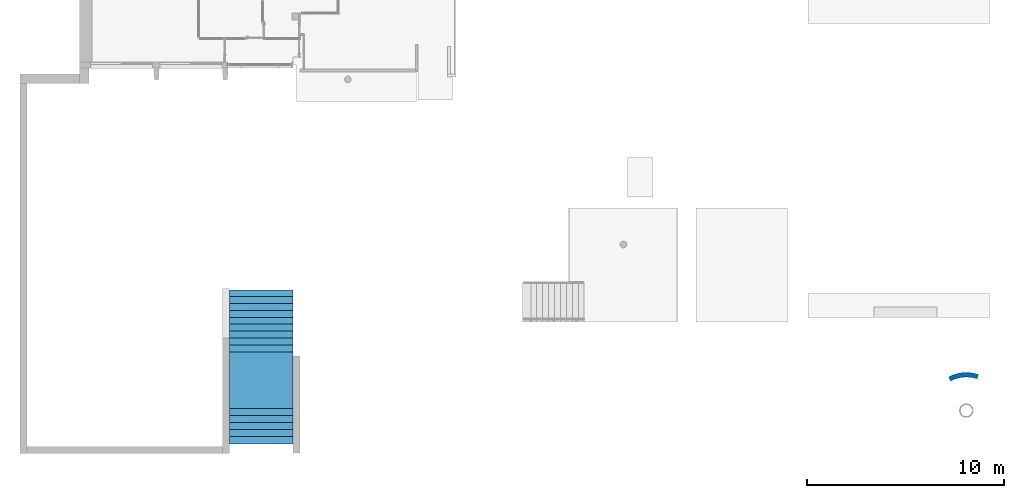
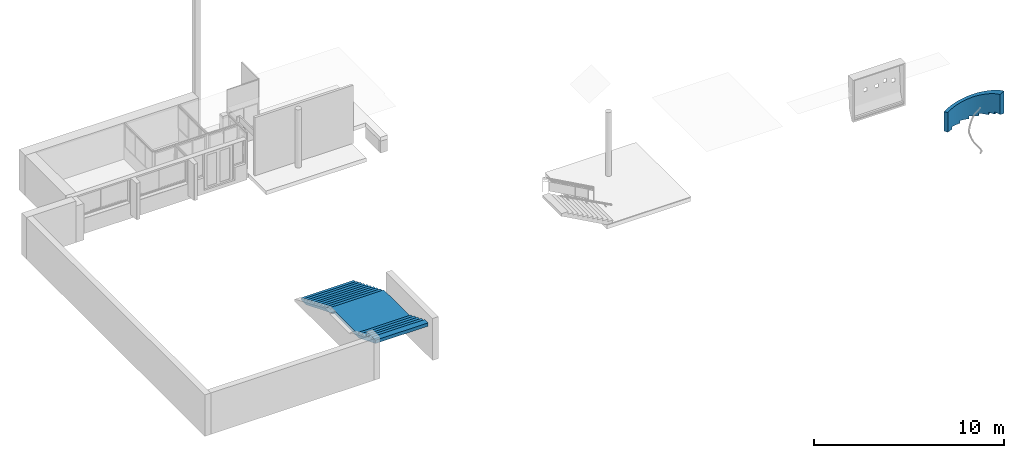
# One storey, part 14 of 19: 1 stair, 1 wall.
"""IFC4 building model written with IfcOpenShell, lengths in metres."""

import ifcopenshell
import ifcopenshell.guid

model = None  # the IFC model being written
_history = None  # IfcOwnerHistory: only IFC2X3 demands one
_inside = {}  # id of a spatial element -> (the spatial element, [elements in it])
_under = {}  # id of a project, library or spatial element -> (it, [spatial elements below it])
_declared = {}  # id of a project -> (the project, [libraries it declares])
_typed = {}  # id of a type object -> (the type object, [elements of that type])
_made_of = {}  # id of a material, layer set ... -> (it, [elements and type objects made of it])


def new_model(schema):
    """Start an empty IFC model of exactly this schema.

    Asked for "IFC4X3", IfcOpenShell would pick the latest addendum, in which some entities
    have other attributes; the version numbers below select the first issue.
    IFC2X3 requires an IfcOwnerHistory on every rooted entity: one is made here for all.
    """
    global model, _history
    if schema == "IFC4X3":
        model = ifcopenshell.file(schema_version=(4, 3, 0, 0))
    else:
        model = ifcopenshell.file(schema=schema)
    _inside.clear()
    _under.clear()
    _declared.clear()
    _typed.clear()
    _made_of.clear()
    _history = None
    if model.schema == "IFC2X3":
        org = make("IfcOrganization", Name="unknown")
        user = make(
            "IfcPersonAndOrganization",
            ThePerson=make("IfcPerson", FamilyName="unknown"),
            TheOrganization=org,
        )
        app = make(
            "IfcApplication",
            ApplicationDeveloper=org,
            Version="unknown",
            ApplicationFullName="unknown",
            ApplicationIdentifier="unknown",
        )
        _history = make(
            "IfcOwnerHistory",
            OwningUser=user,
            OwningApplication=app,
            ChangeAction="ADDED",
            CreationDate=0,
        )
    return model


def make(cls, **values):
    """One entity of the class cls with the attributes given. An attribute that is None is left unset."""
    return model.create_entity(
        cls, **{name: value for name, value in values.items() if value is not None}
    )


def entity(cls, *values):
    """Any entity or typed value of the class cls, its attributes in the order of the schema. None: left unset."""
    e = model.create_entity(cls)
    for i, value in enumerate(values):
        if value is not None:
            e[i] = value
    return e


def rooted(cls, **values):
    """An entity with a GlobalId (a new one), such as an element, a storey or a relation."""
    return make(cls, GlobalId=ifcopenshell.guid.new(), OwnerHistory=_history, **values)


def si_unit(unit_type, name, prefix=None):
    """IfcSIUnit, for example si_unit("LENGTHUNIT", "METRE", prefix="MILLI")."""
    return make("IfcSIUnit", UnitType=unit_type, Prefix=prefix, Name=name)


def converted_unit(unit_type, name, factor, base, dimensions=None, offset=None):
    """IfcConversionBasedUnit, such as the inch: factor (a typed value) times the base unit."""
    return make(
        "IfcConversionBasedUnit"
        if offset is None
        else "IfcConversionBasedUnitWithOffset",
        ConversionOffset=offset,
        Dimensions=None
        if dimensions is None
        else entity("IfcDimensionalExponents", *dimensions),
        UnitType=unit_type,
        Name=name,
        ConversionFactor=make(
            "IfcMeasureWithUnit", ValueComponent=factor, UnitComponent=base
        ),
    )


def derived_unit(unit_type, elements):
    """IfcDerivedUnit: a product of units, each with its exponent."""
    return make(
        "IfcDerivedUnit",
        Elements=[
            make("IfcDerivedUnitElement", Unit=unit, Exponent=power)
            for unit, power in elements
        ],
        UnitType=unit_type,
    )


def assignment(units):
    """IfcUnitAssignment: the units of a project."""
    return None if units is None else make("IfcUnitAssignment", Units=units)


def point(xyz):
    """IfcCartesianPoint."""
    return None if xyz is None else make("IfcCartesianPoint", Coordinates=xyz)


def direction(xyz):
    """IfcDirection."""
    return None if xyz is None else make("IfcDirection", DirectionRatios=xyz)


def frame(location, z_axis=None, x_axis=None):
    """IfcAxis2Placement3D, a coordinate frame: its origin and axes. An axis left out is left unset."""
    return make(
        "IfcAxis2Placement3D",
        Location=point(location),
        Axis=direction(z_axis),
        RefDirection=direction(x_axis),
    )


def origin():
    """The frame at (0, 0, 0) with its axes left unset."""
    return frame((0.0, 0.0, 0.0))


def place(relative_to, where):
    """IfcLocalPlacement: puts the frame where relative to a parent placement (None: the world)."""
    return make(
        "IfcLocalPlacement", PlacementRelTo=relative_to, RelativePlacement=where
    )


def context(
    kind, dimensions, precision=None, world=None, true_north=None, identifier=None
):
    """IfcGeometricRepresentationContext, for example the 3D "Model" context."""
    return make(
        "IfcGeometricRepresentationContext",
        ContextIdentifier=identifier,
        ContextType=kind,
        CoordinateSpaceDimension=dimensions,
        Precision=precision,
        WorldCoordinateSystem=world,
        TrueNorth=true_north,
    )


def subcontext(parent, identifier, kind, view, scale=None):
    """IfcGeometricRepresentationSubContext, for example "Body" below "Model"."""
    return make(
        "IfcGeometricRepresentationSubContext",
        ContextIdentifier=identifier,
        ContextType=kind,
        ParentContext=parent,
        TargetScale=scale,
        TargetView=view,
    )


def project(units=None, contexts=None):
    """IfcProject with its units and contexts."""
    return rooted(
        "IfcProject",
        Name="project",
        RepresentationContexts=contexts,
        UnitsInContext=assignment(units),
    )


def spatial(cls, under=None, at=None, **own):
    """A site, building, storey or space (cls), placed at a placement, below another one or the project."""
    s = rooted(cls, ObjectPlacement=at, **own)
    if under is not None:
        _under.setdefault(under.id(), (under, []))[1].append(s)
    return s


def point_list(points):
    """IfcCartesianPointList2D or 3D."""
    cls = (
        "IfcCartesianPointList2D" if len(points[0]) == 2 else "IfcCartesianPointList3D"
    )
    return make(cls, CoordList=points)


def polygons(points, faces, closed=None, point_numbers=None):
    """IfcPolygonalFaceSet: a face is its outer loop, then its inner loops; points numbered from 1."""
    made = []
    for loops in faces:
        if len(loops) == 1:
            made.append(make("IfcIndexedPolygonalFace", CoordIndex=loops[0]))
        else:
            made.append(
                make(
                    "IfcIndexedPolygonalFaceWithVoids",
                    CoordIndex=loops[0],
                    InnerCoordIndices=loops[1:],
                )
            )
    return make(
        "IfcPolygonalFaceSet",
        Coordinates=point_list(points),
        Closed=closed,
        Faces=made,
        PnIndex=point_numbers,
    )


def shape(context_of_items, identifier, shape_type, items):
    """IfcShapeRepresentation: the items that make up one representation, for example the "Body"."""
    return make(
        "IfcShapeRepresentation",
        ContextOfItems=context_of_items,
        RepresentationIdentifier=identifier,
        RepresentationType=shape_type,
        Items=items,
    )


def material(Name=None, Category=None):
    """IfcMaterial."""
    return make("IfcMaterial", Name=Name, Category=Category)


def made_of(thing, what):
    """Note that an element or type object is made of a material, layer set ...; save() writes the relation."""
    if what is not None:
        _made_of.setdefault(what.id(), (what, []))[1].append(thing)
    return thing


def type_object(cls, material=None, **own):
    """A type object (cls), such as IfcWallType, which elements share."""
    return made_of(rooted(cls, **own), material)


def element(
    cls,
    number,
    at=None,
    inside=None,
    cuts=None,
    type_object=None,
    material=None,
    context=None,
    identifier="Body",
    shape_type=None,
    held_by="IfcProductDefinitionShape",
    body=None,
    shapes=None,
    **own,
):
    """One element of the class cls, such as IfcWall. Its Tag is "e" and its number.

    at: its placement. inside: the storey or other place that contains it. cuts: it is an
    opening in that element (IfcRelVoidsElement). A single representation is given by context,
    identifier, shape_type and body (its items); several are given by shapes. held_by: the class
    of the entity that holds the representations. save() writes the other relations.
    """
    e = rooted(cls, Tag="e%d" % number, ObjectPlacement=at, **own)
    if body is not None:
        shapes = [shape(context, identifier, shape_type, body)]
    if shapes is not None:
        e.Representation = make(held_by, Representations=shapes)
    if inside is not None:
        _inside.setdefault(inside.id(), (inside, []))[1].append(e)
    if cuts is not None:
        rooted(
            "IfcRelVoidsElement", RelatingBuildingElement=cuts, RelatedOpeningElement=e
        )
    if type_object is not None:
        _typed.setdefault(type_object.id(), (type_object, []))[1].append(e)
    return made_of(e, material)


def aggregate(whole, parts):
    """IfcRelAggregates: a whole, such as a stair, and the parts it consists of."""
    return rooted("IfcRelAggregates", RelatingObject=whole, RelatedObjects=parts)


def save(model, path):
    """Write the relations noted so far, then the file.

    IfcRelAggregates (storeys below a building ...), IfcRelContainedInSpatialStructure (elements
    in a storey), IfcRelDefinesByType, IfcRelAssociatesMaterial and IfcRelDeclares: one each for
    every whole, place, type object, material and project.
    """
    for whole, parts in _under.values():
        aggregate(whole, parts)
    for where, things in _inside.values():
        rooted(
            "IfcRelContainedInSpatialStructure",
            RelatedElements=things,
            RelatingStructure=where,
        )
    for kind, things in _typed.values():
        rooted("IfcRelDefinesByType", RelatedObjects=things, RelatingType=kind)
    for what, things in _made_of.values():
        rooted("IfcRelAssociatesMaterial", RelatedObjects=things, RelatingMaterial=what)
    for by, libraries in _declared.values():
        rooted("IfcRelDeclares", RelatingContext=by, RelatedDefinitions=libraries)
    model.write(path)


model = new_model("IFC4")

# Units and contexts
model_context = context("Model", 3, precision=1e-05, world=origin(), true_north=direction((6.12303176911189e-17, 1.0)))
body_context = subcontext(model_context, "Body", "Model", "MODEL_VIEW")
ifc_project = project(units=[si_unit("LENGTHUNIT", "METRE"), si_unit("AREAUNIT", "SQUARE_METRE"), si_unit("VOLUMEUNIT", "CUBIC_METRE"), converted_unit("PLANEANGLEUNIT", "DEGREE", entity("IfcRatioMeasure", 0.0174532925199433), si_unit("PLANEANGLEUNIT", "RADIAN"), dimensions=[0, 0, 0, 0, 0, 0, 0]), si_unit("MASSUNIT", "GRAM", prefix="KILO"), derived_unit("MASSDENSITYUNIT", [(si_unit("MASSUNIT", "GRAM", prefix="KILO"), 1), (si_unit("LENGTHUNIT", "METRE"), -3)]), derived_unit("MOMENTOFINERTIAUNIT", [(si_unit("LENGTHUNIT", "METRE"), 4)]), si_unit("TIMEUNIT", "SECOND"), si_unit("FREQUENCYUNIT", "HERTZ"), si_unit("THERMODYNAMICTEMPERATUREUNIT", "DEGREE_CELSIUS"), derived_unit("THERMALTRANSMITTANCEUNIT", [(si_unit("MASSUNIT", "GRAM", prefix="KILO"), 1), (si_unit("THERMODYNAMICTEMPERATUREUNIT", "KELVIN"), -1), (si_unit("TIMEUNIT", "SECOND"), -3)]), derived_unit("VOLUMETRICFLOWRATEUNIT", [(si_unit("LENGTHUNIT", "METRE"), 3), (si_unit("TIMEUNIT", "SECOND"), -1)]), si_unit("ELECTRICCURRENTUNIT", "AMPERE"), si_unit("ELECTRICVOLTAGEUNIT", "VOLT"), si_unit("POWERUNIT", "WATT"), si_unit("FORCEUNIT", "NEWTON", prefix="KILO"), si_unit("ILLUMINANCEUNIT", "LUX"), si_unit("LUMINOUSFLUXUNIT", "LUMEN"), si_unit("LUMINOUSINTENSITYUNIT", "CANDELA"), derived_unit("USERDEFINED", [(si_unit("MASSUNIT", "GRAM", prefix="KILO"), -1), (si_unit("LENGTHUNIT", "METRE"), -2), (si_unit("TIMEUNIT", "SECOND"), 3), (si_unit("LUMINOUSFLUXUNIT", "LUMEN"), 1)]), derived_unit("LINEARVELOCITYUNIT", [(si_unit("LENGTHUNIT", "METRE"), 1), (si_unit("TIMEUNIT", "SECOND"), -1)]), si_unit("PRESSUREUNIT", "PASCAL"), derived_unit("USERDEFINED", [(si_unit("LENGTHUNIT", "METRE"), -2), (si_unit("MASSUNIT", "GRAM", prefix="KILO"), 1), (si_unit("TIMEUNIT", "SECOND"), -2)]), derived_unit("LINEARFORCEUNIT", [(si_unit("MASSUNIT", "GRAM", prefix="KILO"), 1), (si_unit("LENGTHUNIT", "METRE"), 1), (si_unit("TIMEUNIT", "SECOND"), -2), (si_unit("LENGTHUNIT", "METRE"), -1)]), derived_unit("PLANARFORCEUNIT", [(si_unit("MASSUNIT", "GRAM", prefix="KILO"), 1), (si_unit("LENGTHUNIT", "METRE"), 1), (si_unit("TIMEUNIT", "SECOND"), -2), (si_unit("LENGTHUNIT", "METRE"), -2)])], contexts=[model_context])

# Site, building, storey
site_placement = place(None, origin())
site = spatial("IfcSite", under=ifc_project, at=site_placement, Name="Default", CompositionType="ELEMENT")
building_placement = place(site_placement, origin())
building = spatial("IfcBuilding", under=site, at=building_placement, Name="HOTEL CONSULAIRE BOULOGNE SUR MER", CompositionType="ELEMENT")
storey_placement = place(building_placement, frame((0.0, 0.0, -4.01003075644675)))
storey = spatial("IfcBuildingStorey", under=building, at=storey_placement, Name="SS2", CompositionType="ELEMENT", Elevation=-4.01003075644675)

# Wall
ifc_material = material(Name="Mur par défaut", Category="Divers")
wall_type = type_object("IfcWallType", Name="Murs 1:Murs 1", PredefinedType="NOTDEFINED", material=ifc_material)
wall_placement = place(storey_placement, frame((19.4910541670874, -32.1678232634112, 0.74453316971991)))
element("IfcWall", 1, at=wall_placement, inside=storey, type_object=wall_type, material=ifc_material, Name="Murs 1:Murs 1", ObjectType="Murs 1:Murs 1", PredefinedType="NOTDEFINED", context=body_context, shape_type="Tessellation", body=[
    polygons([(2.81528763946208, 1.29944055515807e-14, 2.43129780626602), (2.83282141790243, 0.0, 2.43129780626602), (2.82986643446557, 0.0187414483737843, 2.43129780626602), (2.82673180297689, 0.0374321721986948, 2.43129780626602), (2.47799207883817, 0.378639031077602, 1.00396954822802), (2.64724363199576, 0.463081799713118, 1.00396954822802), (2.6920664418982, 0.485444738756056, 1.00396954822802), (2.73909097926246, 0.367796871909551, 1.00396954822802), (2.77833104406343, 0.247328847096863, 1.00396954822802), (2.80961906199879, 0.124555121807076, 1.00396954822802), (2.83282141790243, 1.29944055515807e-14, 1.00396954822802), (2.64724363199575, 4.33146851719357e-15, 1.00396954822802), (2.59075654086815, 1.29944055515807e-14, 1.00396954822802), (2.56301601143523, 0.129007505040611, 1.00396954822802), (2.5253522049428, 0.255474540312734, 1.00396954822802), (2.59075654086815, 1.29944055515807e-14, 2.29197476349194), (2.57800499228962, 0.0653935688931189, 2.27291913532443), (2.56276999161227, 0.129967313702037, 2.25290489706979), (2.54510226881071, 0.193644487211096, 2.23203546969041), (2.52505138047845, 0.256356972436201, 2.21041145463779), (2.50266569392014, 0.318041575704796, 2.18813095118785), (2.47799207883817, 0.378639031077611, 2.16528928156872), (2.83282141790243, 1.29944055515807e-14, 2.42992545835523), (2.81424028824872, 1.29944055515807e-14, 2.43061151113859), (2.81319276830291, 1.29944055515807e-14, 2.42992545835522), (2.73072729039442, 8.66293703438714e-15, 2.37700951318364), (2.64724363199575, 4.33146851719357e-15, 2.3255849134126), (2.61905617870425, 0.0, 2.30869553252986), (2.6920664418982, 0.485444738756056, 2.26465927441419), (2.71740791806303, 0.424829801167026, 2.29007998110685), (2.7407412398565, 0.363223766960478, 2.31504097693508), (2.7620303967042, 0.30066686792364, 2.33945850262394), (2.78123805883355, 0.23720011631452, 2.36324636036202), (2.79832506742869, 0.172867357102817, 2.38631536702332), (2.81325060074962, 0.107716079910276, 2.40857345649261), (2.82597221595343, 0.0417996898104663, 2.42992545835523), (2.82635322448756, 0.0396163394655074, 2.43061217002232), (2.58563447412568, 0.432343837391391, 2.21411792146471)], [[[3, 4, 1, 2]], [[13, 14, 15, 5, 6, 7, 8, 9, 10, 11, 12]], [[15, 20, 21]], [[22, 5, 21]], [[15, 21, 5]], [[15, 19, 20]], [[17, 18, 14]], [[16, 17, 13]], [[19, 14, 18]], [[13, 17, 14]], [[15, 14, 19]], [[25, 26, 27, 28, 16, 13, 12, 11, 23, 2, 1, 24]], [[11, 36, 3]], [[36, 11, 35]], [[35, 10, 34]], [[10, 35, 11]], [[2, 23, 11, 3]], [[3, 37, 4]], [[36, 37, 3]], [[32, 9, 8]], [[8, 7, 30]], [[29, 30, 7]], [[10, 33, 34]], [[32, 33, 9]], [[8, 31, 32]], [[8, 30, 31]], [[33, 10, 9]], [[38, 29, 7, 6, 5, 22]], [[21, 38, 22]], [[38, 21, 20]], [[38, 31, 30]], [[29, 38, 30]], [[31, 38, 20]], [[19, 31, 20]], [[32, 19, 18]], [[16, 28, 17]], [[18, 17, 33]], [[27, 17, 28]], [[19, 32, 31]], [[34, 33, 17]], [[34, 17, 27]], [[36, 35, 26]], [[26, 35, 34]], [[37, 36, 25]], [[26, 34, 27]], [[25, 36, 26]], [[1, 4, 24]], [[25, 24, 4]], [[37, 25, 4]], [[32, 18, 33]]], closed=True),
    polygons([(2.2899603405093, 0.708666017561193, 0.836641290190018), (2.48813576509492, 0.842330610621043, 0.836641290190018), (2.54575473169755, 0.757925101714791, 0.836641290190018), (2.59883226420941, 0.670624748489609, 0.836641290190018), (2.64723195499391, 0.580659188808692, 0.836641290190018), (2.67029157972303, 0.533364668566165, 0.836641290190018), (2.6920664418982, 0.485444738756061, 0.836641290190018), (2.64724363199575, 0.463081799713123, 0.836641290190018), (2.47799207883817, 0.378639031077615, 0.836641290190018), (2.42359159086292, 0.493228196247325, 0.836641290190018), (2.36079779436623, 0.603441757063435, 0.836641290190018), (2.47799207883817, 0.378639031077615, 2.16528928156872), (2.45176049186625, 0.436652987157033, 2.14255386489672), (2.42343497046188, 0.493528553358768, 2.11945537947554), (2.39305485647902, 0.549216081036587, 2.09607448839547), (2.36065796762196, 0.603667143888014, 2.07248903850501), (2.32628110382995, 0.656833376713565, 2.04877440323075), (2.28996034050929, 0.708666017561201, 2.02500359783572), (2.6920664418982, 0.485444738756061, 1.00396954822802), (2.6920664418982, 0.485444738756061, 2.26465927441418), (2.58563447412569, 0.4323438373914, 2.21411792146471), (2.48813576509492, 0.842330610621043, 2.09874134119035), (2.52321375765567, 0.792092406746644, 2.12370833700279), (2.55668593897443, 0.740772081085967, 2.14868076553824), (2.58853013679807, 0.688401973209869, 2.17360303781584), (2.61872377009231, 0.635013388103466, 2.19841803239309), (2.64724363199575, 0.580636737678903, 2.22306700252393), (2.67028308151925, 0.533382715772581, 2.24396500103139), (2.38944981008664, 0.775769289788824, 2.0612502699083)], [[[9, 10, 11, 1, 2, 3, 4, 5, 6, 7, 8]], [[11, 16, 17]], [[18, 1, 17]], [[11, 17, 1]], [[11, 15, 16]], [[13, 14, 10]], [[12, 13, 9]], [[15, 10, 14]], [[9, 13, 10]], [[11, 10, 15]], [[21, 12, 9, 8, 7, 19, 20]], [[19, 7, 6]], [[19, 6, 5]], [[20, 19, 28]], [[27, 28, 19]], [[27, 19, 26]], [[19, 5, 26]], [[24, 4, 3]], [[3, 2, 23]], [[22, 23, 2]], [[26, 4, 25]], [[25, 4, 24]], [[3, 23, 24]], [[4, 26, 5]], [[29, 22, 2, 1, 18]], [[29, 18, 17]], [[29, 23, 22]], [[29, 16, 24]], [[29, 17, 16]], [[15, 14, 26]], [[24, 16, 15]], [[29, 24, 23]], [[15, 26, 25]], [[26, 14, 21]], [[26, 21, 27]], [[21, 13, 12]], [[20, 28, 21]], [[21, 14, 13]], [[21, 28, 27]], [[24, 15, 25]]], closed=True),
    polygons([(0.460703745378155, 1.3451273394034, 0.0), (0.344853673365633, 1.30839377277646, 0.0), (0.231924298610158, 1.2634766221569, 0.0), (0.122492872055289, 1.21060548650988, 0.0), (5.63090907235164e-14, 1.41598472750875, 0.0), (0.131435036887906, 1.48020572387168, 0.0), (0.267338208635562, 1.53433365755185, 0.0), (0.406935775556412, 1.57806036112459, 0.0), (5.63090907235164e-14, 1.41598472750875, 1.23834266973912), (0.0653743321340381, 1.44946368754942, 1.24995322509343), (0.131872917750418, 1.48039950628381, 1.26222789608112), (0.199386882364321, 1.50875537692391, 1.27517268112), (0.26780803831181, 1.53450046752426, 1.28879244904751), (0.337027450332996, 1.55760901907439, 1.30309050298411), (0.406935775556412, 1.57806036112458, 1.31806846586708), (0.122492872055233, 1.21060548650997, 1.27835272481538), (0.0612990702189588, 1.31320685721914, 1.25801052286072), (0.460703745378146, 1.3451273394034, 1.34846640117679), (0.391157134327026, 1.32417199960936, 1.33294531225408), (0.322423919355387, 1.30021062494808, 1.31817206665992), (0.254642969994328, 1.27327100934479, 1.30414900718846), (0.187953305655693, 1.24338843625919, 1.29087645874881), (0.433837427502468, 1.46151731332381, 1.33311301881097)], [[[6, 7, 8, 1, 2, 3, 4, 5]], [[8, 7, 14]], [[14, 15, 8]], [[13, 14, 7]], [[7, 12, 13]], [[10, 6, 5]], [[10, 5, 9]], [[11, 12, 6]], [[10, 11, 6]], [[6, 12, 7]], [[16, 17, 9, 5, 4]], [[3, 21, 22]], [[16, 4, 22]], [[3, 22, 4]], [[3, 2, 21]], [[1, 18, 19]], [[20, 2, 19]], [[1, 19, 2]], [[21, 2, 20]], [[23, 18, 1, 8, 15]], [[17, 22, 11]], [[11, 21, 12]], [[17, 10, 9]], [[11, 10, 17]], [[16, 22, 17]], [[20, 13, 12]], [[23, 15, 14]], [[13, 20, 23]], [[18, 23, 19]], [[21, 11, 22]], [[23, 20, 19]], [[21, 20, 12]], [[13, 23, 14]]], closed=True),
    polygons([(1.91326742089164, 1.08420396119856, 0.669313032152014), (2.06044161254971, 1.27256444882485, 0.669313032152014), (2.17972680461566, 1.1779560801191, 0.669313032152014), (2.29122053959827, 1.07427943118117, 0.669313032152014), (2.39423527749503, 0.962173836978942, 0.669313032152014), (2.48813576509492, 0.842330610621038, 0.669313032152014), (2.28996034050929, 0.708666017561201, 0.669313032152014), (2.2071573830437, 0.813373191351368, 0.669313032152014), (2.11639348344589, 0.91126004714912, 0.669313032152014), (2.01822837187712, 1.00172292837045, 0.669313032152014), (2.28996034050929, 0.708666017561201, 2.02500359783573), (2.24977999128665, 0.761588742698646, 2.00006696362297), (2.2075377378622, 0.812929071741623, 1.97522554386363), (2.16327646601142, 0.862625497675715, 1.95055684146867), (2.11703932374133, 0.910615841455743, 1.92613544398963), (2.06887116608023, 0.956835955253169, 1.9020336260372), (2.01881915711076, 1.00121969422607, 1.87832136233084), (1.96693337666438, 1.04369898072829, 1.85506629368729), (1.91326742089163, 1.08420396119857, 1.83233364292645), (2.48813576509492, 0.842330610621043, 2.09874134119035), (2.38944981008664, 0.775769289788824, 2.0612502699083), (2.06044161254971, 1.27256444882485, 1.86339669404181), (2.11488682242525, 1.23127058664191, 1.88780386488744), (2.16768563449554, 1.18821674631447, 1.91278590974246), (2.21879705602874, 1.14346341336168, 1.93828525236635), (2.26818453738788, 1.09706813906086, 1.96424320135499), (2.31581407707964, 1.04908643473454, 1.99059939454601), (2.36165375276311, 0.999571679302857, 2.01729182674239), (2.40567325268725, 0.948575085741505, 2.04425683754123), (2.44784341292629, 0.896145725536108, 2.07142906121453), (1.98697456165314, 1.17853784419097, 1.84767243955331)], [[[5, 6, 7, 8, 9, 10, 1, 2, 3, 4]], [[10, 16, 17]], [[10, 17, 18]], [[1, 18, 19]], [[10, 18, 1]], [[10, 9, 16]], [[9, 15, 16]], [[7, 11, 12]], [[8, 12, 13]], [[9, 8, 14]], [[13, 14, 8]], [[8, 7, 12]], [[15, 9, 14]], [[20, 21, 11, 7, 6]], [[29, 6, 5]], [[27, 5, 4]], [[28, 5, 27]], [[30, 20, 6]], [[28, 29, 5]], [[30, 6, 29]], [[25, 4, 3]], [[3, 2, 23]], [[22, 23, 2]], [[25, 26, 4]], [[23, 24, 3]], [[25, 3, 24]], [[4, 26, 27]], [[31, 22, 2, 1, 19]], [[23, 22, 31]], [[17, 24, 31]], [[23, 31, 24]], [[25, 24, 17]], [[31, 19, 18]], [[25, 17, 16]], [[16, 15, 26]], [[17, 31, 18]], [[26, 25, 16]], [[15, 28, 27]], [[29, 28, 14]], [[15, 14, 28]], [[30, 29, 21]], [[13, 29, 14]], [[21, 13, 12]], [[12, 11, 21]], [[21, 29, 13]], [[21, 20, 30]], [[26, 15, 27]]], closed=True),
    polygons([(1.46024184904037, 1.31790384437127, 0.501984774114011), (1.54592890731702, 1.54109515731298, 0.501984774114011), (1.68176844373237, 1.48866651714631, 0.501984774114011), (1.81329019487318, 1.42619115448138, 0.501984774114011), (1.93975234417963, 1.35402144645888, 0.501984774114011), (2.06044161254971, 1.27256444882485, 0.501984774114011), (1.91326742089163, 1.08420396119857, 0.501984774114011), (1.80693675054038, 1.1552654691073, 0.501984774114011), (1.69556450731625, 1.21813177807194, 0.501984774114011), (1.57978108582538, 1.27244704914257, 0.501984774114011), (1.91326742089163, 1.08420396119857, 1.83233364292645), (1.86095979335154, 1.12060858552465, 1.80803977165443), (1.80729212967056, 1.1550467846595, 1.78384647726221), (1.75232490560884, 1.18747371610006, 1.75979238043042), (1.69612033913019, 1.2178449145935, 1.73591490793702), (1.63874250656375, 1.24611643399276, 1.71225025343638), (1.58025752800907, 1.27224496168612, 1.68883336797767), (1.52073373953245, 1.29618796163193, 1.66569794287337), (1.46024184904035, 1.31790384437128, 1.64287638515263), (2.06044161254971, 1.27256444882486, 1.86339669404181), (1.98697456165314, 1.17853784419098, 1.84767243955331), (1.54592890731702, 1.54109515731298, 1.64876911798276), (1.61238536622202, 1.51691010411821, 1.67401595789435), (1.67778816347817, 1.49037186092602, 1.69964746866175), (1.74206553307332, 1.46152527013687, 1.72562959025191), (1.80514835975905, 1.43041600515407, 1.75192684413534), (1.86697001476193, 1.39709037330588, 1.7785023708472), (1.92746617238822, 1.36159514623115, 1.80531795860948), (1.98657370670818, 1.32397801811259, 1.83233364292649), (2.02384579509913, 1.2986722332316, 1.84772183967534), (2.06044161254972, 1.27256444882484, 1.09466908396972), (1.50309098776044, 1.42951411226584, 1.64581965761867), (1.96086065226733, 1.23987440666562, 1.83233364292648), (1.93706403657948, 1.16203918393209, 1.83233364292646)], [[[4, 5, 6, 7, 8, 9, 10, 1, 2, 3]], [[10, 16, 17]], [[10, 17, 18]], [[1, 18, 19]], [[10, 18, 1]], [[10, 9, 16]], [[9, 15, 16]], [[7, 11, 12]], [[8, 12, 13]], [[9, 8, 14]], [[13, 14, 8]], [[8, 7, 12]], [[15, 9, 14]], [[21, 11, 7, 6, 31, 20]], [[27, 31, 5]], [[27, 5, 4]], [[31, 27, 28]], [[5, 31, 6]], [[30, 31, 29]], [[29, 31, 28]], [[25, 4, 3]], [[3, 2, 23]], [[22, 23, 2]], [[25, 26, 4]], [[30, 20, 31]], [[23, 24, 3]], [[25, 3, 24]], [[4, 26, 27]], [[32, 22, 2, 1, 19]], [[21, 29, 33, 34, 11]], [[20, 30, 21]], [[29, 21, 30]], [[23, 22, 32]], [[24, 23, 32]], [[25, 24, 32]], [[18, 32, 19]], [[12, 34, 13]], [[32, 18, 17]], [[25, 32, 17]], [[13, 34, 33]], [[17, 16, 25]], [[16, 26, 25]], [[27, 26, 15]], [[33, 28, 27]], [[33, 29, 28]], [[27, 15, 14]], [[14, 13, 33]], [[34, 12, 11]], [[27, 14, 33]], [[16, 15, 26]]], closed=True),
    polygons([(0.974589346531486, 1.6453230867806, 0.334656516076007), (1.11996198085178, 1.63546826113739, 0.334656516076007), (1.26418398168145, 1.61472374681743, 0.334656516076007), (1.40644078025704, 1.58320670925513, 0.334656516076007), (1.54592890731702, 1.54109515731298, 0.334656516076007), (1.46024184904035, 1.31790384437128, 0.334656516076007), (1.33752673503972, 1.3542696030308, 0.334656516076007), (1.21242330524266, 1.38129920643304, 0.334656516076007), (1.08564078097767, 1.39883942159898, 0.334656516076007), (0.957897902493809, 1.40679081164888, 0.334656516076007), (0.95789790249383, 1.4067908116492, 1.47710325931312), (0.966240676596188, 1.52601482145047, 1.46899808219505), (0.974589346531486, 1.6453230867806, 1.46095617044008), (1.46024184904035, 1.31790384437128, 1.64287638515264), (1.39096879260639, 1.33966652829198, 1.617560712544), (1.32066966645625, 1.35849018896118, 1.59272688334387), (1.24945669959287, 1.37432214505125, 1.56841466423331), (1.17744808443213, 1.38711238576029, 1.54466199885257), (1.10476651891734, 1.39681456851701, 1.52150436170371), (1.03153924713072, 1.40338652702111, 1.49897468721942), (1.54592890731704, 1.54109515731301, 1.64876911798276), (1.50309098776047, 1.42951411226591, 1.64581965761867), (1.00235198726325, 1.64428800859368, 1.46898417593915), (1.03007051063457, 1.64285677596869, 1.47710325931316), (1.09631966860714, 1.63781998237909, 1.49693547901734), (1.16220690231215, 1.63053543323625, 1.51726961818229), (1.22765783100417, 1.62102694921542, 1.53808860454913), (1.29260055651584, 1.60932044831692, 1.55937409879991), (1.35696538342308, 1.59544375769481, 1.58110644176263), (1.42068484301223, 1.57942640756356, 1.60326469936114), (1.48369369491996, 1.5612994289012, 1.62582670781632), (1.000304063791, 1.54549511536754, 1.47710325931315), (0.979100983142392, 1.47614296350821, 1.47710325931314)], [[[9, 10, 1, 2, 3, 4, 5, 6, 7, 8]], [[11, 12, 13, 1, 10]], [[8, 19, 9]], [[9, 19, 20]], [[11, 10, 20]], [[9, 20, 10]], [[8, 18, 19]], [[6, 14, 15]], [[7, 15, 16]], [[7, 17, 8]], [[18, 8, 17]], [[16, 17, 7]], [[7, 6, 15]], [[21, 22, 14, 6, 5]], [[30, 5, 4]], [[28, 3, 27]], [[3, 28, 4]], [[29, 4, 28]], [[31, 21, 5]], [[29, 30, 4]], [[31, 5, 30]], [[24, 1, 23]], [[1, 24, 2]], [[1, 13, 23]], [[27, 3, 26]], [[24, 25, 2]], [[26, 2, 25]], [[26, 3, 2]], [[12, 23, 13]], [[12, 11, 33, 32, 24]], [[23, 12, 24]], [[18, 26, 32]], [[18, 27, 26]], [[18, 17, 27]], [[24, 32, 25]], [[20, 19, 33]], [[25, 32, 26]], [[32, 19, 18]], [[17, 28, 27]], [[30, 29, 22]], [[31, 30, 22]], [[21, 31, 22]], [[19, 32, 33]], [[17, 16, 28]], [[14, 22, 15]], [[16, 15, 22]], [[33, 11, 20]], [[16, 22, 29]], [[29, 28, 16]]], closed=True),
    polygons([(0.460703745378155, 1.3451273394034, 0.167328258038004), (0.406924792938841, 1.57810793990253, 0.167328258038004), (0.54658443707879, 1.61063552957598, 0.167328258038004), (0.688266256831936, 1.6327516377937, 0.167328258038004), (0.831195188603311, 1.64433527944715, 0.167328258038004), (0.974589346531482, 1.6453230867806, 0.167328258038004), (0.957897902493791, 1.40679081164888, 0.167328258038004), (0.832227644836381, 1.40522411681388, 0.167328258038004), (0.707016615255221, 1.39437670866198, 0.167328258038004), (0.582949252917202, 1.37430788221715, 0.167328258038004), (0.957897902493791, 1.40679081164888, 1.47710325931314), (0.886616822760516, 1.40704325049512, 1.45666082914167), (0.815200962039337, 1.40429597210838, 1.4368780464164), (0.743779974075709, 1.39853050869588, 1.41777500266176), (0.67248511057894, 1.38973419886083, 1.39936891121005), (0.60145005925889, 1.37790051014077, 1.38167444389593), (0.530810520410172, 1.36302935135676, 1.36470373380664), (0.460703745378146, 1.3451273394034, 1.34846640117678), (0.974589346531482, 1.64532308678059, 1.46095617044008), (0.966240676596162, 1.52601482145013, 1.46899808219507), (0.406924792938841, 1.57810793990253, 1.31806239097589), (0.47698760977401, 1.59578762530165, 1.33362386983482), (0.547518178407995, 1.61081664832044, 1.34985552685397), (0.618407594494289, 1.62318880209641, 1.36675299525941), (0.68955021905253, 1.63290323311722, 1.38431048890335), (0.760841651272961, 1.63996366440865, 1.40252026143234), (0.832179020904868, 1.64437822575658, 1.42137259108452), (0.903461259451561, 1.64615925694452, 1.44085578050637), (0.433831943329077, 1.46154107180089, 1.3331099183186)], [[[10, 1, 2, 3, 4, 5, 6, 7, 8, 9]], [[9, 16, 10]], [[10, 16, 17]], [[18, 1, 17]], [[10, 17, 1]], [[9, 15, 16]], [[7, 11, 12]], [[8, 12, 13]], [[8, 14, 9]], [[15, 9, 14]], [[13, 14, 8]], [[8, 7, 12]], [[20, 11, 7, 6, 19]], [[28, 6, 5]], [[4, 26, 5]], [[25, 26, 4]], [[28, 19, 6]], [[26, 27, 5]], [[28, 5, 27]], [[24, 4, 3]], [[22, 3, 2]], [[23, 24, 3]], [[21, 22, 2]], [[23, 3, 22]], [[4, 24, 25]], [[18, 29, 21, 2, 1]], [[23, 22, 29]], [[15, 23, 16]], [[15, 24, 23]], [[29, 22, 21]], [[29, 18, 17]], [[29, 17, 16]], [[29, 16, 23]], [[14, 25, 24]], [[27, 26, 13]], [[20, 19, 28]], [[27, 20, 28]], [[20, 27, 13]], [[14, 24, 15]], [[20, 13, 12]], [[20, 12, 11]], [[13, 26, 14]], [[26, 25, 14]]], closed=True),
])

# Stair
stair_type = type_object("IfcStairType", Name="Escalier coulé sur place:Monobloc 5", PredefinedType="STRAIGHT_RUN_STAIR")
stair_placement = place(storey_placement, frame((-17.0551075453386, -34.150274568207, 0.0)))
element("IfcStair", 2, at=stair_placement, inside=storey, type_object=stair_type, Name="Escalier coulé sur place:Escalier", ObjectType="Escalier coulé sur place:Monobloc 5", PredefinedType="STRAIGHT_RUN_STAIR", context=body_context, shape_type="Tessellation", body=[
    polygons([(3.20975785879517, 7.48333111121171, 0.143055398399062), (3.20975785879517, 7.82684063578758, 0.143055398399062), (1.73258740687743e-14, 7.82684063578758, 0.143055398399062), (1.73258740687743e-14, 7.48333111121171, 0.143055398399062), (3.20975785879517, 7.48333111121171, 0.0), (3.20975785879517, 7.82684063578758, 0.0), (1.73258740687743e-14, 7.82684063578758, 0.0), (1.73258740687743e-14, 7.48333111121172, 0.0), (3.20975785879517, 7.48333111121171, 0.286110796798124), (1.73258740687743e-14, 7.48333111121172, 0.286110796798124), (1.73258740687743e-14, 7.44411045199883, 0.286110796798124), (1.51601398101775e-14, 7.14283987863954, 0.286110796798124), (3.20975785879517, 7.14283987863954, 0.286110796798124), (3.20975785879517, 7.44411045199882, 0.286110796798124), (3.20975785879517, 7.14283987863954, 0.0659414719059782), (3.20975785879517, 7.30450364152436, 0.0), (3.20975785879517, 7.44411045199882, 0.0), (1.73258740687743e-14, 7.44411045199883, 0.0), (1.73258740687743e-14, 7.30450364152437, -1.08286712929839e-15), (1.73258740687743e-14, 7.14283987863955, 0.0659414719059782), (3.20975785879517, 6.78403603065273, 0.429166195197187), (3.20975785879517, 7.14283987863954, 0.429166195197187), (1.51601398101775e-14, 7.14283987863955, 0.429166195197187), (1.51601398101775e-14, 6.78403603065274, 0.429166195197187), (3.20975785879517, 6.78403603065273, 0.212294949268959), (1.51601398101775e-14, 6.78403603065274, 0.212294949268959), (3.20975785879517, 6.42950994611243, 0.572221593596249), (3.20975785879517, 6.78403603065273, 0.572221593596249), (1.51601398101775e-14, 6.78403603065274, 0.572221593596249), (1.51601398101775e-14, 6.42950994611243, 0.572221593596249), (3.20975785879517, 6.42950994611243, 0.356903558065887), (1.51601398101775e-14, 6.42950994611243, 0.356903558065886), (3.20975785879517, 6.08848416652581, 0.715276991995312), (3.20975785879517, 6.42950994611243, 0.715276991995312), (1.51601398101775e-14, 6.42950994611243, 0.715276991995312), (1.29944055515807e-14, 6.08848416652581, 0.715276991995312), (3.20975785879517, 6.08848416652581, 0.496005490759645), (1.51601398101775e-14, 6.08848416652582, 0.496005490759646), (3.20975785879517, 5.73455608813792, 0.858332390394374), (3.20975785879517, 6.08848416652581, 0.858332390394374), (1.29944055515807e-14, 6.08848416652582, 0.858332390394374), (1.29944055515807e-14, 5.73455608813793, 0.858332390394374), (3.20975785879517, 5.73455608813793, 0.640370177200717), (1.29944055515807e-14, 5.73455608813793, 0.640370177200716), (3.20975785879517, 5.3837125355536, 1.00138778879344), (3.20975785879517, 5.73455608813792, 1.00138778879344), (1.29944055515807e-14, 5.73455608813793, 1.00138778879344), (1.29944055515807e-14, 5.38371253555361, 1.00138778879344), (3.20975785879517, 5.38371253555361, 0.783476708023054), (1.29944055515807e-14, 5.38371253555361, 0.783476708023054), (3.20975785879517, 5.03164054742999, 1.1444431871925), (3.20975785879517, 5.3837125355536, 1.1444431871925), (1.29944055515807e-14, 5.38371253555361, 1.1444431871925), (1.08286712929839e-14, 5.03164054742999, 1.1444431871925), (3.20975785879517, 5.03164054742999, 0.927084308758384), (1.29944055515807e-14, 5.03164054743, 0.927084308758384), (3.20975785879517, 4.67758555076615, 1.28749858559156), (3.20975785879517, 5.03164054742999, 1.28749858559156), (1.08286712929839e-14, 5.03164054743, 1.28749858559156), (1.08286712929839e-14, 4.67758555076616, 1.28749858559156), (3.20975785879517, 4.67758555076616, 1.0715007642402), (1.08286712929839e-14, 4.67758555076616, 1.0715007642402), (3.20975785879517, 4.67758555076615, 1.43055398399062), (1.08286712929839e-14, 4.67758555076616, 1.43055398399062), (1.08286712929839e-14, 4.28764669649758, 1.43055398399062), (4.33146851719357e-15, 1.78811306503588, 1.43055398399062), (3.20975785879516, 1.78811306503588, 1.43055398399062), (3.20975785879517, 4.28764669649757, 1.43055398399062), (3.20975785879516, 1.78811306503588, 1.23055398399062), (3.20975785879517, 4.28764669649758, 1.23055398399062), (1.08286712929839e-14, 4.28764669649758, 1.23055398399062), (4.33146851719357e-15, 1.78811306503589, 1.23055398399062), (3.20975785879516, 1.78811306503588, 1.57360938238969), (4.33146851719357e-15, 1.78811306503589, 1.57360938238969), (6.49720277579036e-15, 1.74953854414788, 1.57360938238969), (4.33146851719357e-15, 1.43522443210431, 1.57360938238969), (3.20975785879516, 1.43522443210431, 1.57360938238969), (3.20975785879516, 1.74953854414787, 1.57360938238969), (3.20975785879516, 1.43522443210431, 1.3564837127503), (3.20975785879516, 1.74953854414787, 1.23055398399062), (4.33146851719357e-15, 1.74953854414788, 1.23055398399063), (4.33146851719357e-15, 1.43522443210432, 1.3564837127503), (3.20975785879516, 1.0725504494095, 1.71666478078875), (3.20975785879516, 1.43522443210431, 1.71666478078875), (4.33146851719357e-15, 1.43522443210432, 1.71666478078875), (2.16573425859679e-15, 1.07255044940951, 1.71666478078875), (3.20975785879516, 1.0725504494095, 1.50178878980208), (4.33146851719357e-15, 1.07255044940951, 1.50178878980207), (3.20975785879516, 0.719754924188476, 1.85972017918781), (3.20975785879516, 1.0725504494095, 1.85972017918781), (2.16573425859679e-15, 1.07255044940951, 1.85972017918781), (2.16573425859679e-15, 0.719754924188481, 1.85972017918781), (3.20975785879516, 0.719754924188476, 1.64313606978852), (2.16573425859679e-15, 0.719754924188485, 1.64313606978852), (3.20975785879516, 0.359877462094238, 2.00277557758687), (3.20975785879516, 0.719754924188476, 2.00277557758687), (2.16573425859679e-15, 0.719754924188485, 2.00277557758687), (2.16573425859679e-15, 0.359877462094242, 2.00277557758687), (3.20975785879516, 0.359877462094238, 1.78732072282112), (2.16573425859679e-15, 0.359877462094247, 1.78732072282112), (3.20975785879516, 4.33146851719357e-15, 1.93150537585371), (0.0, 4.33146851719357e-15, 1.93150537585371), (3.20975785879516, 0.0, 2.14583097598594), (3.20975785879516, 0.359877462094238, 2.14583097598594), (2.16573425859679e-15, 0.359877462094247, 2.14583097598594), (0.0, 8.66293703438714e-15, 2.14583097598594)], [[[4, 1, 2, 3]], [[12, 13, 14, 9, 10, 11]], [[24, 21, 22, 23]], [[30, 27, 28, 29]], [[36, 33, 34, 35]], [[42, 39, 40, 41]], [[48, 45, 46, 47]], [[54, 51, 52, 53]], [[60, 57, 58, 59]], [[66, 67, 68, 63, 64, 65]], [[76, 77, 78, 73, 74, 75]], [[86, 83, 84, 85]], [[92, 89, 90, 91]], [[98, 95, 96, 97]], [[106, 103, 104, 105]], [[2, 1, 9, 14, 13, 22, 21, 28, 27, 34, 33, 40, 39, 46, 45, 52, 51, 58, 57, 63, 68, 67, 73, 78, 77, 84, 83, 90, 89, 96, 95, 104, 103, 101, 99, 93, 87, 79, 80, 69, 70, 61, 55, 49, 43, 37, 31, 25, 15, 16, 17, 5, 6]], [[3, 2, 6, 7]], [[10, 9, 1, 4]], [[23, 22, 13, 12]], [[29, 28, 21, 24]], [[35, 34, 27, 30]], [[41, 40, 33, 36]], [[47, 46, 39, 42]], [[53, 52, 45, 48]], [[59, 58, 51, 54]], [[64, 63, 57, 60]], [[74, 73, 67, 66]], [[85, 84, 77, 76]], [[91, 90, 83, 86]], [[97, 96, 89, 92]], [[105, 104, 95, 98]], [[4, 3, 7, 8, 18, 19, 20, 26, 32, 38, 44, 50, 56, 62, 71, 72, 81, 82, 88, 94, 100, 102, 106, 105, 98, 97, 92, 91, 86, 85, 76, 75, 74, 66, 65, 64, 60, 59, 54, 53, 48, 47, 42, 41, 36, 35, 30, 29, 24, 23, 12, 11, 10]], [[8, 7, 6, 5, 17, 16, 19, 18]], [[71, 70, 69, 80, 81, 72]], [[26, 20, 19, 16, 15, 25, 31, 37, 43, 49, 55, 61, 70, 71, 62, 56, 50, 44, 38, 32]], [[82, 81, 80, 79, 87, 93, 99, 101, 102, 100, 94, 88]], [[103, 106, 102, 101]]], closed=True),
])

save(model, "model.ifc")
